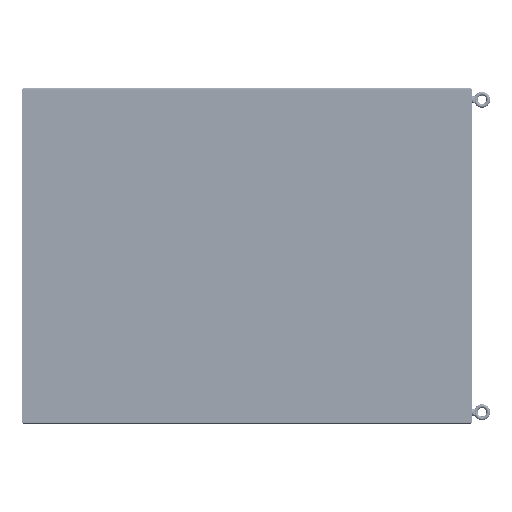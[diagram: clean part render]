
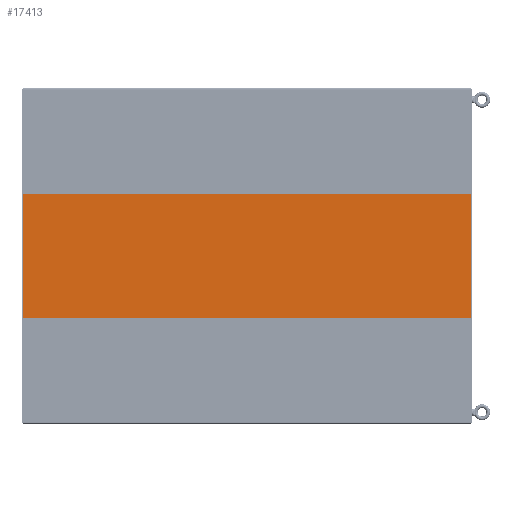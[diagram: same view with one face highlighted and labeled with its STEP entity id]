
A CAD part, left-side view. The second image highlights one B-rep face of the part: STEP entity #17413.
In plain terms, the highlighted planar face has unit normal (-1, 0, 0) as drawn and (0, 0, -1) by its records, which use the part's own axes.
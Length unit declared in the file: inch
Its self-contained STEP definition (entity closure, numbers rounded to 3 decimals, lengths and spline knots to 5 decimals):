
#17170=CARTESIAN_POINT('',(9.8125,-71.7295,-0.104));
#17171=DIRECTION('',(0.,0.,-1.));
#17172=DIRECTION('',(1.,0.,0.));
#17173=AXIS2_PLACEMENT_3D('',#17170,#17171,#17172);
#17178=DIRECTION('',(0.,1.,0.));
#17179=VECTOR('',#17178,71.667);
#17180=CARTESIAN_POINT('',(9.875,-71.7295,-0.104));
#17181=LINE('',#17180,#17179);
#17185=CARTESIAN_POINT('',(9.8125,-0.0625,-0.104));
#17186=DIRECTION('',(0.,0.,-1.));
#17187=DIRECTION('',(0.,1.,0.));
#17188=AXIS2_PLACEMENT_3D('',#17185,#17186,#17187);
#17193=DIRECTION('',(-1.,0.,0.));
#17194=VECTOR('',#17193,19.625);
#17195=CARTESIAN_POINT('',(9.8125,0.,-0.104));
#17196=LINE('',#17195,#17194);
#17200=CARTESIAN_POINT('',(-9.8125,-0.0625,-0.104));
#17201=DIRECTION('',(0.,0.,-1.));
#17202=DIRECTION('',(-1.,0.,0.));
#17203=AXIS2_PLACEMENT_3D('',#17200,#17201,#17202);
#17208=DIRECTION('',(0.,-1.,0.));
#17209=VECTOR('',#17208,71.667);
#17210=CARTESIAN_POINT('',(-9.875,-0.0625,-0.104));
#17211=LINE('',#17210,#17209);
#17215=CARTESIAN_POINT('',(-9.8125,-71.7295,-0.104));
#17216=DIRECTION('',(0.,0.,-1.));
#17217=DIRECTION('',(0.,-1.,0.));
#17218=AXIS2_PLACEMENT_3D('',#17215,#17216,#17217);
#17223=DIRECTION('',(1.,0.,0.));
#17224=VECTOR('',#17223,19.625);
#17225=CARTESIAN_POINT('',(-9.8125,-71.792,-0.104));
#17226=LINE('',#17225,#17224);
#17234=CARTESIAN_POINT('',(9.875,-71.7295,-0.104));
#17235=VERTEX_POINT('',#17234);
#17236=CARTESIAN_POINT('',(9.8125,-71.792,-0.104));
#17237=VERTEX_POINT('',#17236);
#17242=CARTESIAN_POINT('',(9.8125,0.,-0.104));
#17243=VERTEX_POINT('',#17242);
#17244=CARTESIAN_POINT('',(9.875,-0.0625,-0.104));
#17245=VERTEX_POINT('',#17244);
#17250=CARTESIAN_POINT('',(-9.8125,-71.792,-0.104));
#17251=VERTEX_POINT('',#17250);
#17252=CARTESIAN_POINT('',(-9.8125,0.,-0.104));
#17253=VERTEX_POINT('',#17252);
#17256=CARTESIAN_POINT('',(-9.875,-71.7295,-0.104));
#17257=VERTEX_POINT('',#17256);
#17260=CARTESIAN_POINT('',(-9.875,-0.0625,-0.104));
#17261=VERTEX_POINT('',#17260);
#17398=CARTESIAN_POINT('',(0.,0.,-0.104));
#17399=DIRECTION('',(0.,0.,1.));
#17400=DIRECTION('',(1.,0.,0.));
#17401=AXIS2_PLACEMENT_3D('',#17398,#17399,#17400);
#17402=PLANE('',#17401);
#17403=ORIENTED_EDGE('',*,*,#17294,.F.);
#17404=ORIENTED_EDGE('',*,*,#17310,.T.);
#17405=ORIENTED_EDGE('',*,*,#17323,.F.);
#17406=ORIENTED_EDGE('',*,*,#17338,.T.);
#17407=ORIENTED_EDGE('',*,*,#17351,.F.);
#17408=ORIENTED_EDGE('',*,*,#17364,.T.);
#17409=ORIENTED_EDGE('',*,*,#17379,.F.);
#17410=ORIENTED_EDGE('',*,*,#17391,.T.);
#17411=EDGE_LOOP('',(#17403,#17404,#17405,#17406,#17407,#17408,#17409,#17410));
#17412=FACE_OUTER_BOUND('',#17411,.F.);
#17174=CIRCLE('',#17173,0.0625);
#17189=CIRCLE('',#17188,0.0625);
#17204=CIRCLE('',#17203,0.0625);
#17219=CIRCLE('',#17218,0.0625);
#17294=EDGE_CURVE('',#17235,#17237,#17174,.T.);
#17310=EDGE_CURVE('',#17235,#17245,#17181,.T.);
#17323=EDGE_CURVE('',#17243,#17245,#17189,.T.);
#17338=EDGE_CURVE('',#17243,#17253,#17196,.T.);
#17351=EDGE_CURVE('',#17261,#17253,#17204,.T.);
#17364=EDGE_CURVE('',#17261,#17257,#17211,.T.);
#17379=EDGE_CURVE('',#17251,#17257,#17219,.T.);
#17391=EDGE_CURVE('',#17251,#17237,#17226,.T.);
#17413=ADVANCED_FACE('',(#17412),#17402,.F.);
